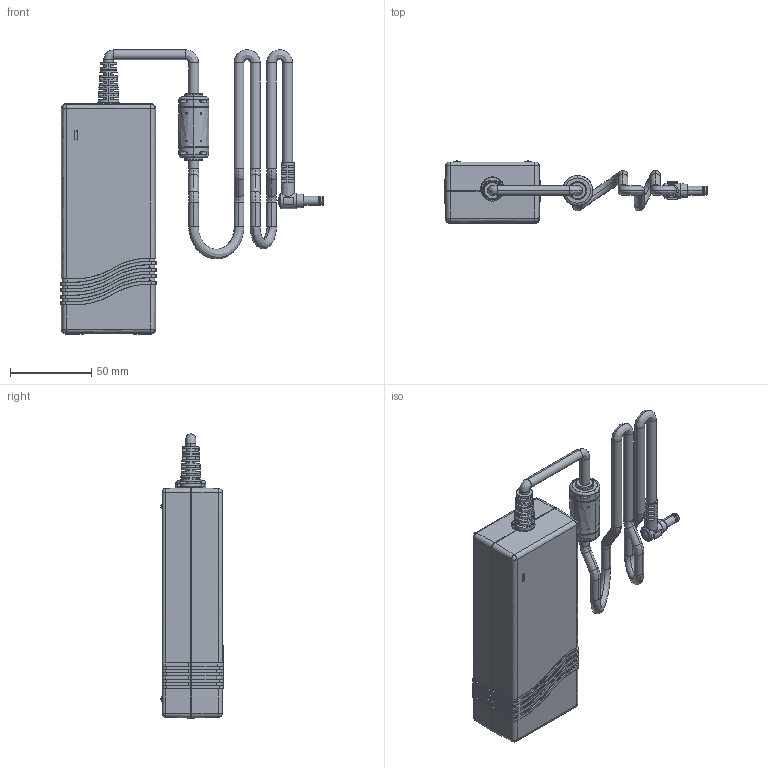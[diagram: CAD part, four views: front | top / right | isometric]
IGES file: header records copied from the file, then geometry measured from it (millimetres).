
Start section: SolidWorks IGES file using analytic representation for surfaces
Global section: file name: C:\Users\cdavies\Desktop\AEJ100.IGS; native system: SolidWorks 2017; preprocessor: SolidWorks 2017; author: cdavies; date: 200123.121251; units: millimetre
Bounding box: 161.9 x 38.5 x 175.1 mm (x, y, z)
Surface area: 90676.6 mm2 (no closed solid volume)
Topology: 0 solids, 0 shells, 1058 faces, 11065 edges, 11027 vertices
Faces by surface type: bspline 695, revolution 363
